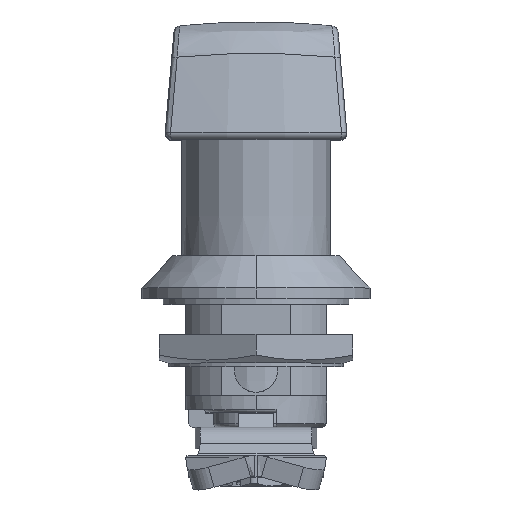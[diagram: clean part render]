
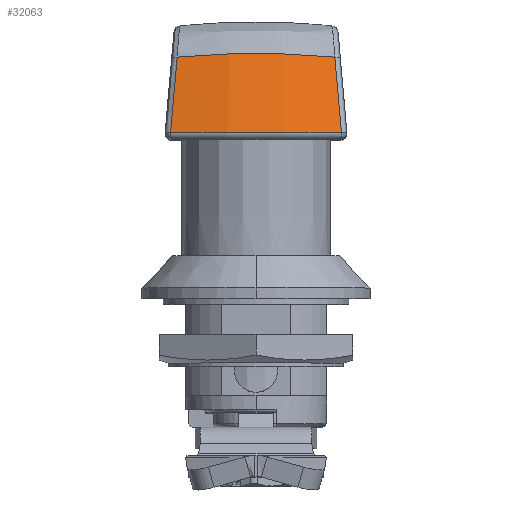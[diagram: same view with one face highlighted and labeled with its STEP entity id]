
A CAD part, top view. The second image highlights one B-rep face of the part: STEP entity #32063.
In plain terms, the highlighted conical face has half-angle 15 degrees and reference radius 47.034 mm.
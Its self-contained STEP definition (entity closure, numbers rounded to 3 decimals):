
#955 = CARTESIAN_POINT ( 'NONE',  ( -35.161, 54.252, 11.055 ) ) ;
#1840 = EDGE_CURVE ( 'NONE', #29140, #14103, #26503, .T. ) ;
#2666 = CARTESIAN_POINT ( 'NONE',  ( -37.772, 44., -11.953 ) ) ;
#3161 = CARTESIAN_POINT ( 'NONE',  ( -37.543, 44.894, -11.878 ) ) ;
#3689 = ORIENTED_EDGE ( 'NONE', *, *, #31754, .T. ) ;
#3767 = CARTESIAN_POINT ( 'NONE',  ( -35.086, 54.55, -11.029 ) ) ;
#3976 = CARTESIAN_POINT ( 'NONE',  ( -35.237, 53.954, 11.081 ) ) ;
#4529 = CARTESIAN_POINT ( 'NONE',  ( -36.624, 48.506, 11.561 ) ) ;
#5157 = CARTESIAN_POINT ( 'NONE',  ( -37.773, 44., 11.946 ) ) ;
#5623 = CARTESIAN_POINT ( 'NONE',  ( -35.249, 53.907, -11.085 ) ) ;
#5812 = CARTESIAN_POINT ( 'NONE',  ( -37.771, 44., -11.957 ) ) ;
#6213 = CARTESIAN_POINT ( 'NONE',  ( -35.844, 54.882, -7.402 ) ) ;
#6864 = VERTEX_POINT ( 'NONE', #15918 ) ;
#6969 = CARTESIAN_POINT ( 'NONE',  ( -35.086, 54.55, 11.029 ) ) ;
#6992 = CARTESIAN_POINT ( 'NONE',  ( -37.279, 45.931, 11.787 ) ) ;
#9813 = CARTESIAN_POINT ( 'NONE',  ( -37.771, 44., 11.957 ) ) ;
#10361 = B_SPLINE_CURVE_WITH_KNOTS ( 'NONE', 3,
 ( #28520, #2666, #13427, #19630 ),
 .UNSPECIFIED., .F., .F.,
 ( 4, 4 ),
 ( 0., 0. ),
 .UNSPECIFIED. ) ;
#10373 = CARTESIAN_POINT ( 'NONE',  ( -35.313, 53.656, 11.107 ) ) ;
#10662 = ORIENTED_EDGE ( 'NONE', *, *, #20608, .T. ) ;
#11304 = B_SPLINE_CURVE_WITH_KNOTS ( 'NONE', 3,
 ( #5157, #34567, #25714, #31545 ),
 .UNSPECIFIED., .F., .F.,
 ( 4, 4 ),
 ( 0., 0. ),
 .UNSPECIFIED. ) ;
#11426 = EDGE_CURVE ( 'NONE', #6864, #18549, #11304, .T. ) ;
#12628 = B_SPLINE_CURVE_WITH_KNOTS ( 'NONE', 3,
 ( #6969, #32057, #32245, #20716, #6213, #3767 ),
 .UNSPECIFIED., .F., .F.,
 ( 4, 2, 4 ),
 ( 0.001, 0.012, 0.023 ),
 .UNSPECIFIED. ) ;
#12820 = ORIENTED_EDGE ( 'NONE', *, *, #15828, .T. ) ;
#13427 = CARTESIAN_POINT ( 'NONE',  ( -37.773, 44., -11.95 ) ) ;
#13755 = FACE_OUTER_BOUND ( 'NONE', #24782, .T. ) ;
#13950 = VERTEX_POINT ( 'NONE', #20274 ) ;
#14103 = VERTEX_POINT ( 'NONE', #30094 ) ;
#14228 = CARTESIAN_POINT ( 'NONE',  ( -37.771, 44., 11.957 ) ) ;
#15828 = EDGE_CURVE ( 'NONE', #32588, #6864, #16618, .T. ) ;
#15918 = CARTESIAN_POINT ( 'NONE',  ( -37.773, 44., 11.946 ) ) ;
#16618 = CIRCLE ( 'NONE', #21442, 51.187 ) ;
#17117 = CARTESIAN_POINT ( 'NONE',  ( -36.888, 47.469, -11.652 ) ) ;
#17307 = CARTESIAN_POINT ( 'NONE',  ( -35.086, 54.55, -11.029 ) ) ;
#17491 = CARTESIAN_POINT ( 'NONE',  ( -35.413, 53.263, -11.142 ) ) ;
#17544 = DIRECTION ( 'NONE',  ( 0., 1., 0. ) ) ;
#18484 = CARTESIAN_POINT ( 'NONE',  ( -35.086, 54.55, 11.029 ) ) ;
#18549 = VERTEX_POINT ( 'NONE', #14228 ) ;
#18661 = CARTESIAN_POINT ( 'NONE',  ( -35.969, 51.081, 11.334 ) ) ;
#19398 = CARTESIAN_POINT ( 'NONE',  ( 12., 59.5, 0. ) ) ;
#19630 = CARTESIAN_POINT ( 'NONE',  ( -37.773, 44., -11.946 ) ) ;
#19906 = AXIS2_PLACEMENT_3D ( 'NONE', #19398, #25270, #22243 ) ;
#20274 = CARTESIAN_POINT ( 'NONE',  ( -35.086, 54.55, 11.029 ) ) ;
#20608 = EDGE_CURVE ( 'NONE', #13950, #29140, #12628, .T. ) ;
#20716 = CARTESIAN_POINT ( 'NONE',  ( -36.225, 55.053, -3.725 ) ) ;
#20742 = CARTESIAN_POINT ( 'NONE',  ( 12., 44., 0. ) ) ;
#21442 = AXIS2_PLACEMENT_3D ( 'NONE', #20742, #17544, #29445 ) ;
#22243 = DIRECTION ( 'NONE',  ( 0., 0., -1. ) ) ;
#22958 = ORIENTED_EDGE ( 'NONE', *, *, #1840, .T. ) ;
#24782 = EDGE_LOOP ( 'NONE', ( #37027, #28715, #10662, #22958, #3689, #12820 ) ) ;
#25270 = DIRECTION ( 'NONE',  ( 0., -1., 0. ) ) ;
#25432 = CARTESIAN_POINT ( 'NONE',  ( -37.695, 44.298, -11.931 ) ) ;
#25714 = CARTESIAN_POINT ( 'NONE',  ( -37.772, 44., 11.953 ) ) ;
#26503 = B_SPLINE_CURVE_WITH_KNOTS ( 'NONE', 3,
 ( #17307, #5623, #17491, #31655, #29021, #17117, #3161, #34111, #25432, #5812 ),
 .UNSPECIFIED., .F., .F.,
 ( 4, 3, 3, 4 ),
 ( 0., 0.002, 0.01, 0.011 ),
 .UNSPECIFIED. ) ;
#28520 = CARTESIAN_POINT ( 'NONE',  ( -37.771, 44., -11.957 ) ) ;
#28715 = ORIENTED_EDGE ( 'NONE', *, *, #35525, .T. ) ;
#28938 = CARTESIAN_POINT ( 'NONE',  ( -35.086, 54.55, -11.029 ) ) ;
#29021 = CARTESIAN_POINT ( 'NONE',  ( -36.233, 50.044, -11.425 ) ) ;
#29140 = VERTEX_POINT ( 'NONE', #28938 ) ;
#29445 = DIRECTION ( 'NONE',  ( 0., 0., 1. ) ) ;
#29820 = CARTESIAN_POINT ( 'NONE',  ( -37.443, 45.288, 11.844 ) ) ;
#30094 = CARTESIAN_POINT ( 'NONE',  ( -37.771, 44., -11.957 ) ) ;
#31545 = CARTESIAN_POINT ( 'NONE',  ( -37.771, 44., 11.957 ) ) ;
#31655 = CARTESIAN_POINT ( 'NONE',  ( -35.577, 52.619, -11.199 ) ) ;
#31754 = EDGE_CURVE ( 'NONE', #14103, #32588, #10361, .T. ) ;
#32057 = CARTESIAN_POINT ( 'NONE',  ( -35.844, 54.882, 7.402 ) ) ;
#32063 = ADVANCED_FACE ( 'NONE', ( #13755 ), #34392, .T. ) ;
#32245 = CARTESIAN_POINT ( 'NONE',  ( -36.225, 55.053, 3.727 ) ) ;
#32588 = VERTEX_POINT ( 'NONE', #35778 ) ;
#32833 = CARTESIAN_POINT ( 'NONE',  ( -37.607, 44.644, 11.9 ) ) ;
#34111 = CARTESIAN_POINT ( 'NONE',  ( -37.619, 44.596, -11.905 ) ) ;
#34392 = CONICAL_SURFACE ( 'NONE', #19906, 47.034, 0.262 ) ;
#34567 = CARTESIAN_POINT ( 'NONE',  ( -37.773, 44., 11.95 ) ) ;
#35525 = EDGE_CURVE ( 'NONE', #18549, #13950, #36673, .T. ) ;
#35778 = CARTESIAN_POINT ( 'NONE',  ( -37.773, 44., -11.946 ) ) ;
#36673 = B_SPLINE_CURVE_WITH_KNOTS ( 'NONE', 3,
 ( #9813, #32833, #29820, #6992, #4529, #18661, #10373, #3976, #955, #18484 ),
 .UNSPECIFIED., .F., .F.,
 ( 4, 3, 3, 4 ),
 ( 0., 0.002, 0.01, 0.011 ),
 .UNSPECIFIED. ) ;
#37027 = ORIENTED_EDGE ( 'NONE', *, *, #11426, .T. ) ;
